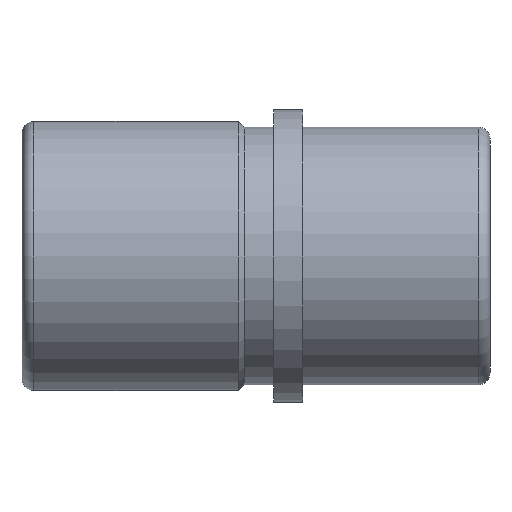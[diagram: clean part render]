
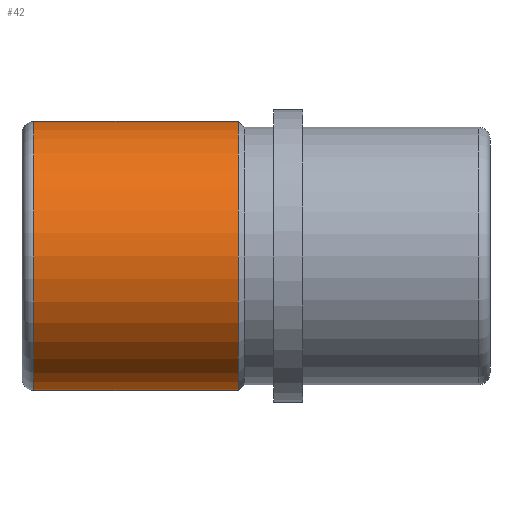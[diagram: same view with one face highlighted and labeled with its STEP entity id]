
A CAD part, front view. The second image highlights one B-rep face of the part: STEP entity #42.
In plain terms, the highlighted cylindrical face has radius 23 mm (diameter 46 mm), a full revolution.
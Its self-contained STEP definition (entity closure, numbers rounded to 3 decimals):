
#42 = ADVANCED_FACE( '', ( #91, #92 ), #93, .T. );
#91 = FACE_OUTER_BOUND( '', #154, .T. );
#92 = FACE_OUTER_BOUND( '', #155, .T. );
#93 = CYLINDRICAL_SURFACE( '', #156, 23. );
#154 = EDGE_LOOP( '', ( #215 ) );
#155 = EDGE_LOOP( '', ( #216 ) );
#156 = AXIS2_PLACEMENT_3D( '', #217, #218, #219 );
#215 = ORIENTED_EDGE( '', *, *, #291, .T. );
#216 = ORIENTED_EDGE( '', *, *, #293, .F. );
#217 = CARTESIAN_POINT( '', ( 32., 0., 0. ) );
#218 = DIRECTION( '', ( -1., 0., 0. ) );
#219 = DIRECTION( '', ( 0., 0., -1. ) );
#291 = EDGE_CURVE( '', #322, #322, #323, .T. );
#293 = EDGE_CURVE( '', #325, #325, #326, .T. );
#322 = VERTEX_POINT( '', #364 );
#323 = CIRCLE( '', #365, 23. );
#325 = VERTEX_POINT( '', #367 );
#326 = CIRCLE( '', #368, 23. );
#364 = CARTESIAN_POINT( '', ( -46., 0., -23. ) );
#365 = AXIS2_PLACEMENT_3D( '', #407, #408, #409 );
#367 = CARTESIAN_POINT( '', ( -11., 0., -23. ) );
#368 = AXIS2_PLACEMENT_3D( '', #410, #411, #412 );
#407 = CARTESIAN_POINT( '', ( -46., 0., 0. ) );
#408 = DIRECTION( '', ( 1., 0., 0. ) );
#409 = DIRECTION( '', ( 0., 0., -1. ) );
#410 = CARTESIAN_POINT( '', ( -11., 0., 0. ) );
#411 = DIRECTION( '', ( 1., 0., 0. ) );
#412 = DIRECTION( '', ( 0., 0., -1. ) );
